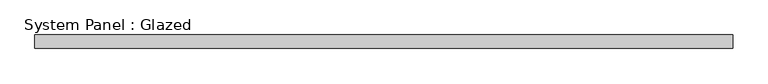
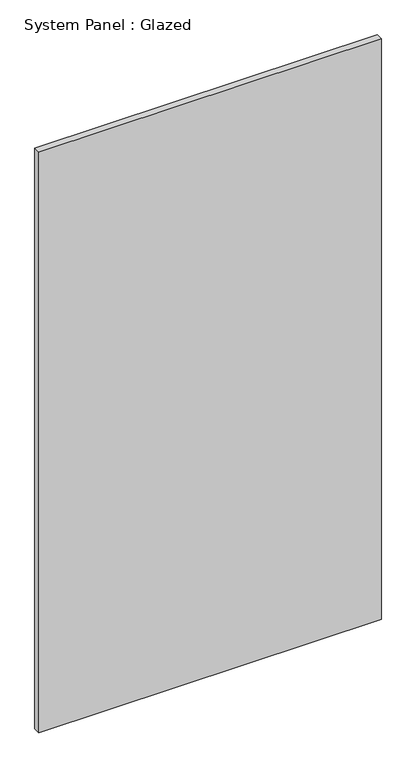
"""IFC4 building model written with IfcOpenShell, lengths in millimetres: plate geometry, System Panel : Glazed."""

from ifc_helpers import new_model, si_unit, origin, origin_with_axes, place, context, project, spatial, polyline, outline, extrude, source, transform, mapped, element, save


def system_panel_glazed_f4f1b6a3(model_context):
    return source(origin(), model_context, "Body", "SweptSolid", [
        extrude(outline(polyline([(654.05, 19.05), (-654.05, 19.05), (-654.05, 44.45), (654.05, 44.45), (654.05, 19.05)])), origin_with_axes(), (0.0, 0.0, 1.0), 2343.15),
    ])


if __name__ == "__main__":
    model = new_model("IFC4")
    model_context = context("Model", 3, world=origin())
    ifc_project = project(units=[si_unit("LENGTHUNIT", "METRE", prefix="MILLI")], contexts=[model_context])
    site = spatial("IfcSite", under=ifc_project)
    building = spatial("IfcBuilding", under=site)
    placement = place(None, origin())
    system_panel_glazed_shape = system_panel_glazed_f4f1b6a3(model_context)
    element("IfcPlate", 1, ObjectType="System Panel : Glazed", at=placement, inside=building, context=model_context, shape_type="MappedRepresentation", body=[
        mapped(system_panel_glazed_shape, transform((0.0, 0.0, 0.0), x_axis=(1.0, 0.0, 0.0), y_axis=(0.0, 1.0, 0.0), z_axis=(0.0, 0.0, 1.0))),
    ])
    save(model, "model.ifc")
